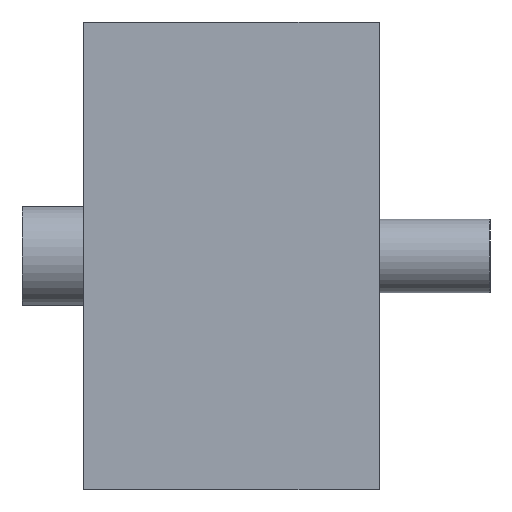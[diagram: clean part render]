
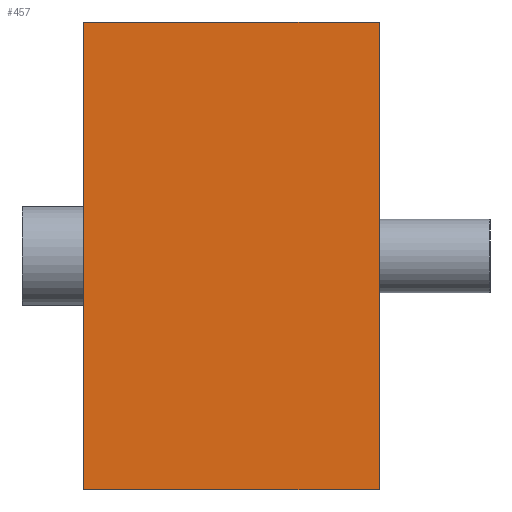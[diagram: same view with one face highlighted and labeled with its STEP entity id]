
A CAD part, left-side view. The second image highlights one B-rep face of the part: STEP entity #457.
In plain terms, the highlighted planar face has unit normal (-1, 0, 0).
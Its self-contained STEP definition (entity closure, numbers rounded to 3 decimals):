
#43 = PLANE('',#44);
#44 = AXIS2_PLACEMENT_3D('',#45,#46,#47);
#45 = CARTESIAN_POINT('',(-45.,-65.,2.));
#46 = DIRECTION('',(0.,1.,0.));
#47 = DIRECTION('',(0.,0.,1.));
#114 = VERTEX_POINT('',#115);
#115 = CARTESIAN_POINT('',(-45.,-65.,2.));
#131 = PLANE('',#132);
#132 = AXIS2_PLACEMENT_3D('',#133,#134,#135);
#133 = CARTESIAN_POINT('',(-45.,-89.,2.));
#134 = DIRECTION('',(0.,0.,1.));
#135 = DIRECTION('',(1.,0.,0.));
#143 = EDGE_CURVE('',#114,#144,#146,.T.);
#144 = VERTEX_POINT('',#145);
#145 = CARTESIAN_POINT('',(-45.,-65.,40.));
#146 = SURFACE_CURVE('',#147,(#151,#158),.PCURVE_S1.);
#147 = LINE('',#148,#149);
#148 = CARTESIAN_POINT('',(-45.,-65.,2.));
#149 = VECTOR('',#150,1.);
#150 = DIRECTION('',(0.,0.,1.));
#151 = PCURVE('',#43,#152);
#152 = DEFINITIONAL_REPRESENTATION('',(#153),#157);
#153 = LINE('',#154,#155);
#154 = CARTESIAN_POINT('',(0.,0.));
#155 = VECTOR('',#156,1.);
#156 = DIRECTION('',(1.,0.));
#157 = ( GEOMETRIC_REPRESENTATION_CONTEXT(2) 
PARAMETRIC_REPRESENTATION_CONTEXT() REPRESENTATION_CONTEXT('2D SPACE',''
  ) );
#158 = PCURVE('',#159,#164);
#159 = PLANE('',#160);
#160 = AXIS2_PLACEMENT_3D('',#161,#162,#163);
#161 = CARTESIAN_POINT('',(-45.,-89.,2.));
#162 = DIRECTION('',(1.,0.,0.));
#163 = DIRECTION('',(0.,0.,1.));
#164 = DEFINITIONAL_REPRESENTATION('',(#165),#169);
#165 = LINE('',#166,#167);
#166 = CARTESIAN_POINT('',(0.,-24.));
#167 = VECTOR('',#168,1.);
#168 = DIRECTION('',(1.,0.));
#169 = ( GEOMETRIC_REPRESENTATION_CONTEXT(2) 
PARAMETRIC_REPRESENTATION_CONTEXT() REPRESENTATION_CONTEXT('2D SPACE',''
  ) );
#187 = PLANE('',#188);
#188 = AXIS2_PLACEMENT_3D('',#189,#190,#191);
#189 = CARTESIAN_POINT('',(-45.,-89.,40.));
#190 = DIRECTION('',(0.,0.,1.));
#191 = DIRECTION('',(1.,0.,0.));
#336 = EDGE_CURVE('',#337,#114,#339,.T.);
#337 = VERTEX_POINT('',#338);
#338 = CARTESIAN_POINT('',(-45.,-89.,2.));
#339 = SURFACE_CURVE('',#340,(#344,#351),.PCURVE_S1.);
#340 = LINE('',#341,#342);
#341 = CARTESIAN_POINT('',(-45.,-89.,2.));
#342 = VECTOR('',#343,1.);
#343 = DIRECTION('',(0.,1.,0.));
#344 = PCURVE('',#131,#345);
#345 = DEFINITIONAL_REPRESENTATION('',(#346),#350);
#346 = LINE('',#347,#348);
#347 = CARTESIAN_POINT('',(0.,0.));
#348 = VECTOR('',#349,1.);
#349 = DIRECTION('',(0.,1.));
#350 = ( GEOMETRIC_REPRESENTATION_CONTEXT(2) 
PARAMETRIC_REPRESENTATION_CONTEXT() REPRESENTATION_CONTEXT('2D SPACE',''
  ) );
#351 = PCURVE('',#159,#352);
#352 = DEFINITIONAL_REPRESENTATION('',(#353),#357);
#353 = LINE('',#354,#355);
#354 = CARTESIAN_POINT('',(0.,0.));
#355 = VECTOR('',#356,1.);
#356 = DIRECTION('',(0.,-1.));
#357 = ( GEOMETRIC_REPRESENTATION_CONTEXT(2) 
PARAMETRIC_REPRESENTATION_CONTEXT() REPRESENTATION_CONTEXT('2D SPACE',''
  ) );
#375 = PLANE('',#376);
#376 = AXIS2_PLACEMENT_3D('',#377,#378,#379);
#377 = CARTESIAN_POINT('',(-45.,-89.,2.));
#378 = DIRECTION('',(0.,1.,0.));
#379 = DIRECTION('',(0.,0.,1.));
#457 = ADVANCED_FACE('',(#458),#159,.F.);
#458 = FACE_BOUND('',#459,.F.);
#459 = EDGE_LOOP('',(#460,#483,#484,#485));
#460 = ORIENTED_EDGE('',*,*,#461,.F.);
#461 = EDGE_CURVE('',#337,#462,#464,.T.);
#462 = VERTEX_POINT('',#463);
#463 = CARTESIAN_POINT('',(-45.,-89.,40.));
#464 = SURFACE_CURVE('',#465,(#469,#476),.PCURVE_S1.);
#465 = LINE('',#466,#467);
#466 = CARTESIAN_POINT('',(-45.,-89.,2.));
#467 = VECTOR('',#468,1.);
#468 = DIRECTION('',(0.,0.,1.));
#469 = PCURVE('',#159,#470);
#470 = DEFINITIONAL_REPRESENTATION('',(#471),#475);
#471 = LINE('',#472,#473);
#472 = CARTESIAN_POINT('',(0.,0.));
#473 = VECTOR('',#474,1.);
#474 = DIRECTION('',(1.,0.));
#475 = ( GEOMETRIC_REPRESENTATION_CONTEXT(2) 
PARAMETRIC_REPRESENTATION_CONTEXT() REPRESENTATION_CONTEXT('2D SPACE',''
  ) );
#476 = PCURVE('',#375,#477);
#477 = DEFINITIONAL_REPRESENTATION('',(#478),#482);
#478 = LINE('',#479,#480);
#479 = CARTESIAN_POINT('',(0.,0.));
#480 = VECTOR('',#481,1.);
#481 = DIRECTION('',(1.,0.));
#482 = ( GEOMETRIC_REPRESENTATION_CONTEXT(2) 
PARAMETRIC_REPRESENTATION_CONTEXT() REPRESENTATION_CONTEXT('2D SPACE',''
  ) );
#483 = ORIENTED_EDGE('',*,*,#336,.T.);
#484 = ORIENTED_EDGE('',*,*,#143,.T.);
#485 = ORIENTED_EDGE('',*,*,#486,.F.);
#486 = EDGE_CURVE('',#462,#144,#487,.T.);
#487 = SURFACE_CURVE('',#488,(#492,#499),.PCURVE_S1.);
#488 = LINE('',#489,#490);
#489 = CARTESIAN_POINT('',(-45.,-89.,40.));
#490 = VECTOR('',#491,1.);
#491 = DIRECTION('',(0.,1.,0.));
#492 = PCURVE('',#159,#493);
#493 = DEFINITIONAL_REPRESENTATION('',(#494),#498);
#494 = LINE('',#495,#496);
#495 = CARTESIAN_POINT('',(38.,0.));
#496 = VECTOR('',#497,1.);
#497 = DIRECTION('',(0.,-1.));
#498 = ( GEOMETRIC_REPRESENTATION_CONTEXT(2) 
PARAMETRIC_REPRESENTATION_CONTEXT() REPRESENTATION_CONTEXT('2D SPACE',''
  ) );
#499 = PCURVE('',#187,#500);
#500 = DEFINITIONAL_REPRESENTATION('',(#501),#505);
#501 = LINE('',#502,#503);
#502 = CARTESIAN_POINT('',(0.,0.));
#503 = VECTOR('',#504,1.);
#504 = DIRECTION('',(0.,1.));
#505 = ( GEOMETRIC_REPRESENTATION_CONTEXT(2) 
PARAMETRIC_REPRESENTATION_CONTEXT() REPRESENTATION_CONTEXT('2D SPACE',''
  ) );
